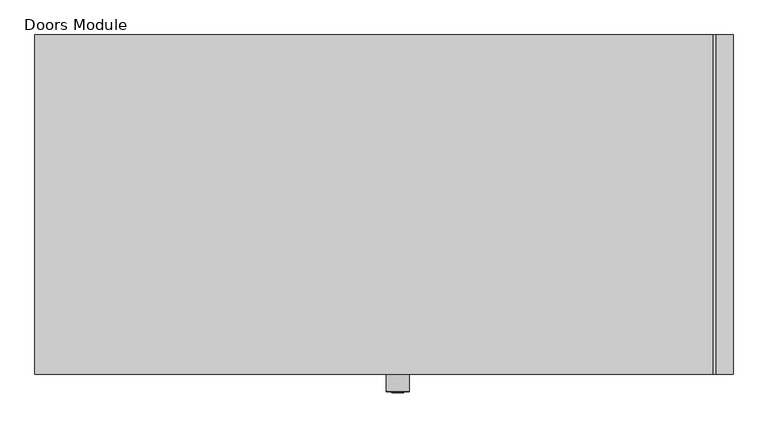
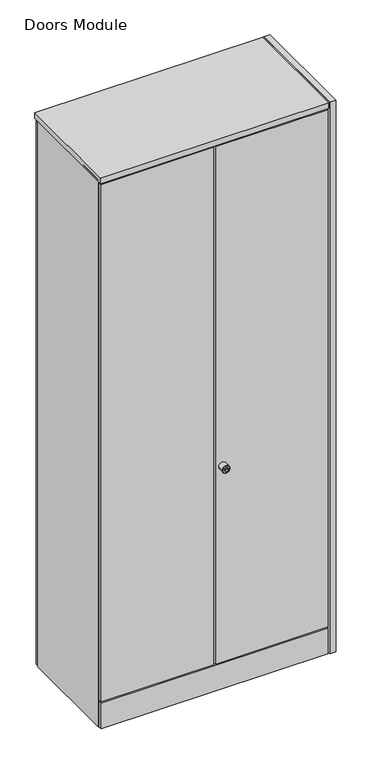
"""IFC4 building model written with IfcOpenShell, lengths in millimetres: furniture geometry, Furniture_Storage_Spacestor_SignatureStoragewall : Doors Module."""

from ifc_helpers import new_model, si_unit, point, frame, origin, origin_with_axes, place, context, project, spatial, polyline, circle_curve, ellipse_curve, trimmed, outline, extrude, source, transform, mapped, element, save
from ifc_brep_helpers import plane_surface, cylinder_surface, revolved_surface, advanced_brep


def doors_module_16a4452a(model_context):
    return source(origin(), model_context, "Body", "SolidModel", [
        extrude(outline(polyline([(1003.5, -20.5), (1000.0, -20.5), (1000.0, 479.5), (1003.5, 479.5), (1003.5, -20.5)])), frame((0.0, 0.0, 2525.0), z_axis=(0.0, 0.0, 1.0), x_axis=(1.0, 0.0, 0.0)), (0.0, 0.0, 1.0), 25.5),
        extrude(outline(polyline([(996.5, 459.0), (3.5, 459.0), (3.5, 477.0), (996.5, 477.0), (996.5, 459.0)])), origin_with_axes(), (0.0, 0.0, 1.0), 2518.0),
        extrude(outline(polyline([(996.5, -18.0), (3.5, -18.0), (3.5, 0.0), (996.5, 0.0), (996.5, -18.0)])), origin_with_axes(), (0.0, 0.0, 1.0), 118.0),
        extrude(outline(polyline([(1000.0, -20.5), (0.0, -20.5), (0.0, 479.5), (1000.0, 479.5), (1000.0, -20.5)])), frame((0.0, 0.0, 2525.0), z_axis=(0.0, 0.0, 1.0), x_axis=(1.0, 0.0, 0.0)), (0.0, 0.0, 1.0), 25.5),
        extrude(outline(polyline([(1003.5, 479.5), (1029.0, 479.5), (1029.0, -20.5), (1003.5, -20.5), (1003.5, 479.5)])), origin_with_axes(), (0.0, 0.0, 1.0), 2550.5),
        extrude(outline(polyline([(1011.0, 0.0), (1000.0, 0.0), (1000.0, 459.0), (1011.0, 459.0), (1011.0, 0.0)])), origin_with_axes(), (0.0, 0.0, 1.0), 2532.5),
        extrude(outline(polyline([(1000.0, 0.0), (989.0, 0.0), (989.0, 459.0), (1000.0, 459.0), (1000.0, 0.0)])), origin_with_axes(), (0.0, 0.0, 1.0), 2532.5),
        extrude(outline(polyline([(11.0, 0.0), (0.0, 0.0), (0.0, 459.0), (11.0, 459.0), (11.0, 0.0)])), origin_with_axes(), (0.0, 0.0, 1.0), 2532.5),
        extrude(outline(polyline([(989.0, 0.0), (11.0, 0.0), (11.0, 459.0), (989.0, 459.0), (989.0, 0.0)])), frame((0.0, 0.0, 2023.0), z_axis=(0.0, 0.0, 1.0), x_axis=(1.0, 0.0, 0.0)), (0.0, 0.0, 1.0), 22.0),
        extrude(outline(polyline([(989.0, 0.0), (11.0, 0.0), (11.0, 459.0), (989.0, 459.0), (989.0, 0.0)])), frame((0.0, 0.0, 1639.0), z_axis=(0.0, 0.0, 1.0), x_axis=(1.0, 0.0, 0.0)), (0.0, 0.0, 1.0), 22.0),
        extrude(outline(polyline([(989.0, 0.0), (11.0, 0.0), (11.0, 459.0), (989.0, 459.0), (989.0, 0.0)])), frame((0.0, 0.0, 1255.0), z_axis=(0.0, 0.0, 1.0), x_axis=(1.0, 0.0, 0.0)), (0.0, 0.0, 1.0), 22.0),
        extrude(outline(polyline([(989.0, 0.0), (11.0, 0.0), (11.0, 459.0), (989.0, 459.0), (989.0, 0.0)])), frame((0.0, 0.0, 871.0), z_axis=(0.0, 0.0, 1.0), x_axis=(1.0, 0.0, 0.0)), (0.0, 0.0, 1.0), 22.0),
        extrude(outline(polyline([(989.0, 0.0), (11.0, 0.0), (11.0, 459.0), (989.0, 459.0), (989.0, 0.0)])), frame((0.0, 0.0, 487.0), z_axis=(0.0, 0.0, 1.0), x_axis=(1.0, 0.0, 0.0)), (0.0, 0.0, 1.0), 22.0),
        advanced_brep(
        [(552.0, -45.3116344, 1032.0), (518.0, -45.3116344, 1032.0), (518.0, -18.0, 1032.0), (552.0, -18.0, 1032.0), (535.0, -18.0, 1032.0), (543.9747319, -46.3150077, 1032.0), (526.0252681, -46.3150077, 1032.0), (519.0033734, -46.3150077, 1032.0), (550.9966266, -46.3150077, 1032.0), (543.9747319, -47.4703043, 1032.0), (526.0252681, -47.4703043, 1032.0), (539.8245152, -47.4703043, 1032.0), (539.8245152, -47.4703043, 1030.6366562), (530.1754848, -47.4703043, 1030.6366562), (530.1754848, -47.4703043, 1032.0), (530.1754848, -47.4703043, 1033.3633438), (539.8245152, -47.4703043, 1033.3633438), (530.1754848, -27.8604291, 1030.6366562), (539.8245152, -27.8604291, 1030.6366562), (539.8245152, -27.8604291, 1033.3633438), (530.1754848, -27.8604291, 1033.3633438)],
        [
            (0, 1, circle_curve(frame((535.0, -45.3116344, 1032.0), z_axis=(0.0, 1.0, 0.0), x_axis=(-1.0, 0.0, 0.0)), 17.0)),
            (1, 2),
            (2, 3, circle_curve(frame((535.0, -18.0, 1032.0), z_axis=(0.0, -1.0, 0.0), x_axis=(-1.0, 0.0, 0.0)), 17.0)),
            (3, 0),
            (1, 0, circle_curve(frame((535.0, -45.3116344, 1032.0), z_axis=(0.0, 1.0, 0.0), x_axis=(-1.0, 0.0, 0.0)), 17.0)),
            (3, 2, circle_curve(frame((535.0, -18.0, 1032.0), z_axis=(0.0, -1.0, 0.0), x_axis=(-1.0, 0.0, 0.0)), 17.0)),
            (2, 4),
            (4, 3),
            (5, 6, circle_curve(frame((535.0, -46.3150077, 1032.0), z_axis=(0.0, 1.0, 0.0), x_axis=(-1.0, 0.0, 0.0)), 8.9747319)),
            (6, 7),
            (7, 8, circle_curve(frame((535.0, -46.3150077, 1032.0), z_axis=(0.0, -1.0, 0.0), x_axis=(-1.0, 0.0, 0.0)), 15.9966266)),
            (8, 5),
            (6, 5, circle_curve(frame((535.0, -46.3150077, 1032.0), z_axis=(0.0, 1.0, 0.0), x_axis=(-1.0, 0.0, 0.0)), 8.9747319)),
            (8, 7, circle_curve(frame((535.0, -46.3150077, 1032.0), z_axis=(0.0, -1.0, 0.0), x_axis=(-1.0, 0.0, 0.0)), 15.9966266)),
            (0, 8, circle_curve(frame((550.9966266, -45.3116344, 1032.0), z_axis=(0.0, 0.0, -1.0), x_axis=(1.0, 0.0, 0.0)), 1.0033734)),
            (7, 1, circle_curve(frame((519.0033734, -45.3116344, 1032.0), z_axis=(0.0, 0.0, -1.0), x_axis=(-1.0, 0.0, 0.0)), 1.0033734)),
            (5, 9),
            (9, 10, circle_curve(frame((535.0, -47.4703043, 1032.0), z_axis=(0.0, 1.0, 0.0), x_axis=(-1.0, 0.0, 0.0)), 8.9747319)),
            (10, 6),
            (10, 9, circle_curve(frame((535.0, -47.4703043, 1032.0), z_axis=(0.0, 1.0, 0.0), x_axis=(-1.0, 0.0, 0.0)), 8.9747319)),
            (9, 11),
            (11, 12),
            (12, 13),
            (13, 14),
            (14, 10),
            (14, 15),
            (15, 16),
            (16, 11),
            (17, 18),
            (18, 19),
            (19, 20),
            (20, 17),
            (17, 13),
            (12, 18),
            (16, 19),
            (15, 20),
        ],
        [
            cylinder_surface(frame((535.0, -2627.0581012, 1032.0), z_axis=(0.0, -1.0, 0.0), x_axis=(-1.0, 0.0, 0.0)), 17.0),
            plane_surface(frame((535.0, -18.0, 1032.0), z_axis=(0.0, 1.0, 0.0), x_axis=(-1.0, 0.0, 0.0))),
            plane_surface(frame((535.0, -46.3150077, 1032.0), z_axis=(0.0, -1.0, 0.0), x_axis=(-1.0, 0.0, 0.0))),
            revolved_surface(trimmed(ellipse_curve(frame((519.0033734, -45.3116344, 1032.0), z_axis=(0.0, 0.0, 1.0), x_axis=(-1.0, 0.0, 0.0)), 1.0033734, 1.0033734), [point((518.0, -45.3116344, 1032.0))], [point((519.0033734, -46.3150077, 1032.0))], True, "CARTESIAN"), (535.0, -2627.0581012, 1032.0), (0.0, -1.0, 0.0)),
            cylinder_surface(frame((535.0, -2627.0581012, 1032.0), z_axis=(0.0, -1.0, 0.0), x_axis=(-1.0, 0.0, 0.0)), 8.9747319),
            plane_surface(frame((535.0, -47.4703043, 1032.0), z_axis=(0.0, -1.0, 0.0), x_axis=(-1.0, 0.0, 0.0))),
            plane_surface(frame((539.4565249, -27.8604291, 1030.6366562), z_axis=(0.0, -1.0, 0.0), x_axis=(-1.0, 0.0, 0.0))),
            plane_surface(frame((530.1754848, -49.2046383, 1030.6366562), z_axis=(0.0, 0.0, 1.0), x_axis=(0.0, 1.0, 0.0))),
            plane_surface(frame((539.8245152, -49.2046383, 1030.6366562), z_axis=(-1.0, 0.0, 0.0), x_axis=(0.0, 1.0, 0.0))),
            plane_surface(frame((539.8245152, -49.2046383, 1033.3633438), z_axis=(0.0, 0.0, -1.0), x_axis=(0.0, 1.0, 0.0))),
            plane_surface(frame((530.1754848, -49.2046383, 1033.3633438), z_axis=(1.0, 0.0, 0.0), x_axis=(0.0, 1.0, 0.0))),
        ],
        [
            (0, [[1, 2, 3, 4]]),
            (0, [[-2, 5, -4, 6]]),
            (1, [[-3, 7, 8]]),
            (1, [[-6, -8, -7]]),
            (2, [[9, 10, 11, 12]]),
            (2, [[-10, 13, -12, 14]]),
            (3, [[-1, 15, -11, 16]]),
            (3, [[-5, -16, -14, -15]]),
            (4, [[-9, 17, 18, 19]]),
            (4, [[-13, -19, 20, -17]]),
            (5, [[-18, 21, 22, 23, 24, 25]]),
            (5, [[-20, -25, 26, 27, 28, -21]]),
            (6, [[29, 30, 31, 32]]),
            (7, [[-29, 33, -23, 34]]),
            (8, [[-30, -34, -22, -28, 35]]),
            (9, [[-31, -35, -27, 36]]),
            (10, [[-32, -36, -26, -24, -33]]),
        ],
    ),
        extrude(outline(polyline([(3.5, -18.0), (3.5, 0.0), (496.5, 0.0), (496.5, -18.0), (3.5, -18.0)])), frame((0.0, 0.0, 125.0), z_axis=(0.0, 0.0, 1.0), x_axis=(1.0, 0.0, 0.0)), (0.0, 0.0, 1.0), 2393.0),
        extrude(outline(polyline([(996.5, -18.0), (503.5, -18.0), (503.5, 0.0), (996.5, 0.0), (996.5, -18.0)])), frame((0.0, 0.0, 125.0), z_axis=(0.0, 0.0, 1.0), x_axis=(1.0, 0.0, 0.0)), (0.0, 0.0, 1.0), 2393.0),
        extrude(outline(polyline([(989.0, 0.0), (11.0, 0.0), (11.0, 459.0), (989.0, 459.0), (989.0, 0.0)])), frame((0.0, 0.0, 110.5), z_axis=(0.0, 0.0, 1.0), x_axis=(1.0, 0.0, 0.0)), (0.0, 0.0, 1.0), 22.0),
        extrude(outline(polyline([(989.0, 0.0), (11.0, 0.0), (11.0, 459.0), (989.0, 459.0), (989.0, 0.0)])), frame((0.0, 0.0, 2510.0), z_axis=(0.0, 0.0, 1.0), x_axis=(1.0, 0.0, 0.0)), (0.0, 0.0, 1.0), 22.0),
    ])


if __name__ == "__main__":
    model = new_model("IFC4")
    model_context = context("Model", 3, world=origin())
    ifc_project = project(units=[si_unit("LENGTHUNIT", "METRE", prefix="MILLI")], contexts=[model_context])
    site = spatial("IfcSite", under=ifc_project)
    building = spatial("IfcBuilding", under=site)
    placement = place(None, origin())
    doors_module_shape = doors_module_16a4452a(model_context)
    element("IfcFurniture", 1, ObjectType="Furniture_Storage_Spacestor_SignatureStoragewall : Doors Module", at=placement, inside=building, context=model_context, shape_type="MappedRepresentation", body=[
        mapped(doors_module_shape, transform((0.0, 0.0, 0.0), x_axis=(1.0, 0.0, 0.0), y_axis=(0.0, 1.0, 0.0), z_axis=(0.0, 0.0, 1.0))),
    ])
    save(model, "model.ifc")
